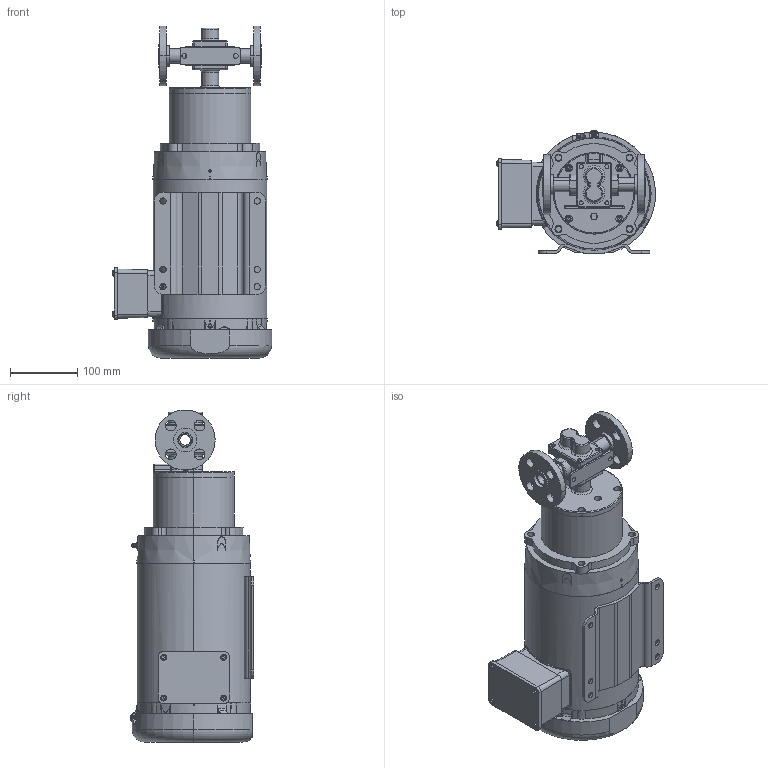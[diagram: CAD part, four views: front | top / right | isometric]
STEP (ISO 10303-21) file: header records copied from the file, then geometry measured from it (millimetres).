
FILE_DESCRIPTION (( 'STEP AP214' ), '1' );
FILE_NAME ('GMC2 FLGD 140TC MOTOR.STEP', '2025-08-28T14:38:55', ( '' ), ( '' ), 'SwSTEP 2.0', 'SolidWorks 2024', '' );
FILE_SCHEMA (( 'AUTOMOTIVE_DESIGN' ));
Length unit declared in the file: inch
Products named in the file (1): GMC2 FLGD 140TC MOTOR
Bounding box: 236.18 x 182.97 x 492.44 mm (x, y, z)
Volume: 7990274.2 mm3; surface area: 501956.6 mm2
Topology: 9 solids, 9 shells, 1878 faces, 4887 edges, 3177 vertices
Faces by surface type: cylinder 848, plane 737, cone 121, torus 65, bspline 61, sphere 46
Entity records: 62783 total; most frequent: CARTESIAN_POINT 15789, DIRECTION 10047, ORIENTED_EDGE 9738, EDGE_CURVE 4869, AXIS2_PLACEMENT_3D 3848, VERTEX_POINT 3175, VECTOR 2351, LINE 2351
